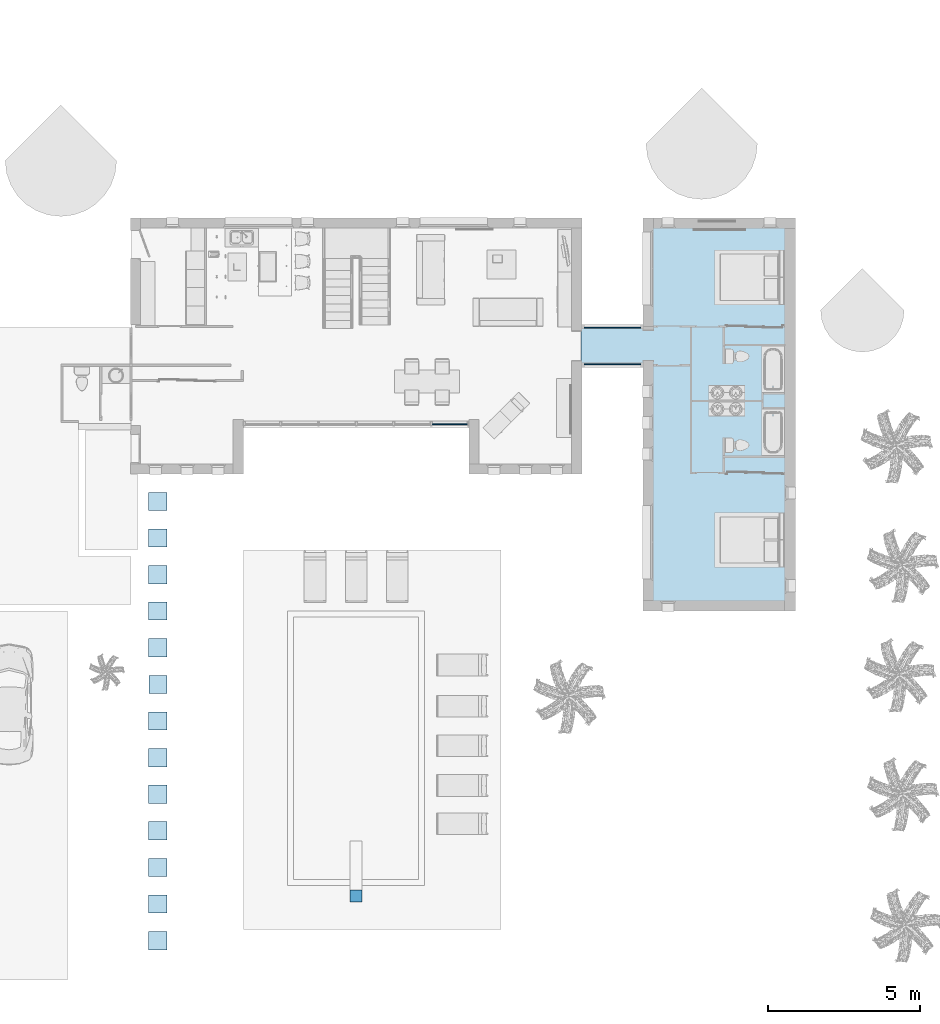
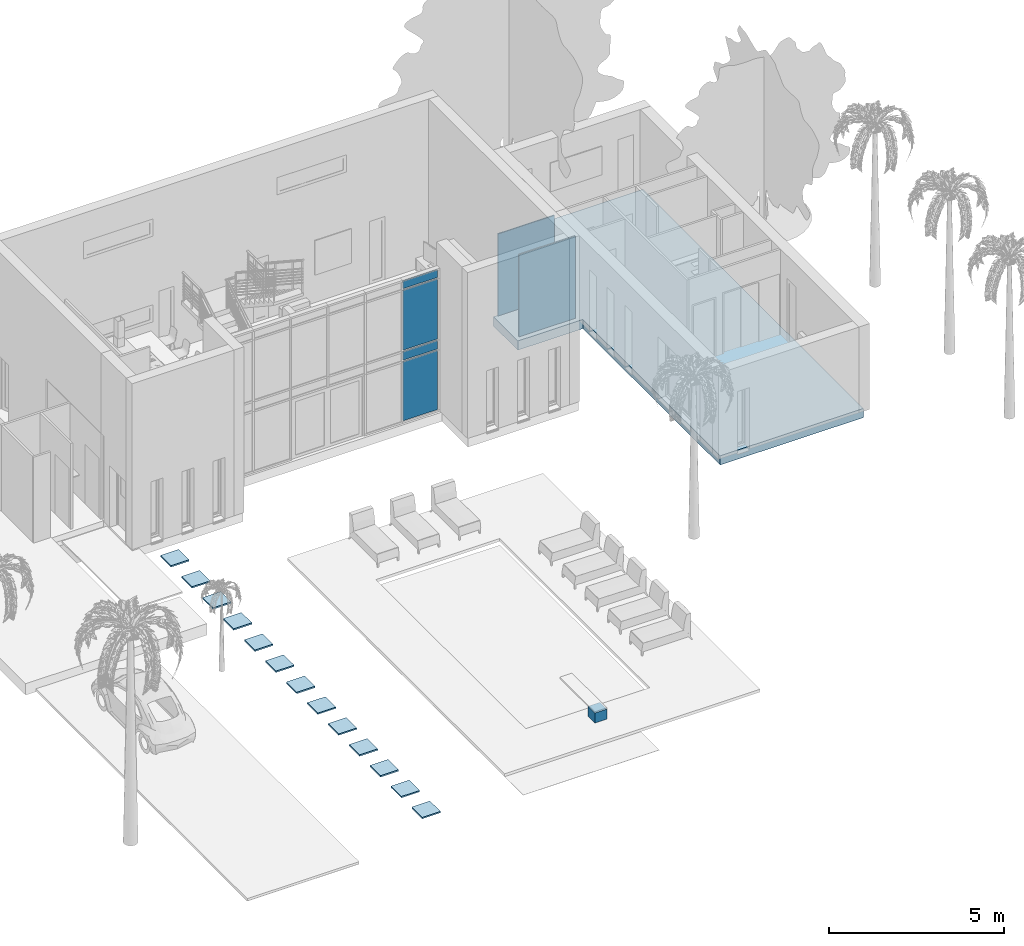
# One storey, part 3 of 40: 15 slabs, 6 plates, 3 elements without a shape of their own.
"""IFC2X3 building model written with IfcOpenShell, lengths in metres."""

from ifc_helpers import new_model, entity, si_unit, converted_unit, derived_unit, direction, frame, frame_2d, origin, origin_2d_with_axis, place, context, subcontext, project, spatial, polyline, rectangle, outline, extrude, source, transform, mapped, material, layer, layer_set, layer_usage, type_object, type_shapes, element, aggregate, save


model = new_model("IFC2X3")

# Units and contexts
model_context = context("Model", 3, precision=1e-05, world=origin(), true_north=direction((6.12303176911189e-17, 1.0)))
body_context = subcontext(model_context, "Body", "Model", "MODEL_VIEW")
ifc_project = project(units=[si_unit("LENGTHUNIT", "METRE"), si_unit("AREAUNIT", "SQUARE_METRE"), si_unit("VOLUMEUNIT", "CUBIC_METRE"), converted_unit("PLANEANGLEUNIT", "DEGREE", entity("IfcRatioMeasure", 0.0174532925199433), si_unit("PLANEANGLEUNIT", "RADIAN"), dimensions=[0, 0, 0, 0, 0, 0, 0]), si_unit("MASSUNIT", "GRAM", prefix="KILO"), derived_unit("MASSDENSITYUNIT", [(si_unit("MASSUNIT", "GRAM", prefix="KILO"), 1), (si_unit("LENGTHUNIT", "METRE"), -3)]), si_unit("TIMEUNIT", "SECOND"), si_unit("FREQUENCYUNIT", "HERTZ"), si_unit("THERMODYNAMICTEMPERATUREUNIT", "DEGREE_CELSIUS"), derived_unit("THERMALTRANSMITTANCEUNIT", [(si_unit("MASSUNIT", "GRAM", prefix="KILO"), 1), (si_unit("THERMODYNAMICTEMPERATUREUNIT", "KELVIN"), -1), (si_unit("TIMEUNIT", "SECOND"), -3)]), derived_unit("VOLUMETRICFLOWRATEUNIT", [(si_unit("LENGTHUNIT", "METRE"), 3), (si_unit("TIMEUNIT", "SECOND"), -1)]), si_unit("ELECTRICCURRENTUNIT", "AMPERE"), si_unit("ELECTRICVOLTAGEUNIT", "VOLT"), si_unit("POWERUNIT", "WATT"), si_unit("FORCEUNIT", "NEWTON", prefix="KILO"), si_unit("ILLUMINANCEUNIT", "LUX"), si_unit("LUMINOUSFLUXUNIT", "LUMEN"), si_unit("LUMINOUSINTENSITYUNIT", "CANDELA"), derived_unit("USERDEFINED", [(si_unit("MASSUNIT", "GRAM", prefix="KILO"), -1), (si_unit("LENGTHUNIT", "METRE"), -2), (si_unit("TIMEUNIT", "SECOND"), 3), (si_unit("LUMINOUSFLUXUNIT", "LUMEN"), 1)]), derived_unit("LINEARVELOCITYUNIT", [(si_unit("LENGTHUNIT", "METRE"), 1), (si_unit("TIMEUNIT", "SECOND"), -1)]), si_unit("PRESSUREUNIT", "PASCAL"), derived_unit("USERDEFINED", [(si_unit("LENGTHUNIT", "METRE"), -2), (si_unit("MASSUNIT", "GRAM", prefix="KILO"), 1), (si_unit("TIMEUNIT", "SECOND"), -2)])], contexts=[model_context])

# Site, building, storey
site_placement = place(None, origin())
site = spatial("IfcSite", under=ifc_project, at=site_placement, Name="Surface", CompositionType="ELEMENT")
building_placement = place(site_placement, origin())
building = spatial("IfcBuilding", under=site, at=building_placement, CompositionType="ELEMENT")
storey_placement = place(building_placement, origin())
storey = spatial("IfcBuildingStorey", under=building, at=storey_placement, Name="RDC", CompositionType="ELEMENT", Elevation=-1.0941605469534e-13)

# Curtain wall, plates
curtain_wall_type_1 = type_object("IfcCurtainWallType", Name="Mur-rideau:Simple panneau", PredefinedType="NOTDEFINED")
curtain_wall_1_placement = place(storey_placement, origin())
curtain_wall_1 = element("IfcCurtainWall", 1, at=curtain_wall_1_placement, inside=storey, type_object=curtain_wall_type_1, Name="Mur-rideau:Simple panneau", ObjectType="Mur-rideau:Simple panneau")
ifc_material_1 = material(Name="Verre")
ifc_layer_1 = layer(ifc_material_1, 0.04)
ifc_layer_set_1 = layer_set([ifc_layer_1], Name="Mur-rideau:Simple panneau")
ifc_layer_usage_1 = layer_usage(ifc_layer_set_1, "AXIS3", "POSITIVE", 0.0820209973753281)
plate_type_1 = type_object("IfcPlateType", Name="Vitré", PredefinedType="CURTAIN_PANEL", material=ifc_layer_set_1)
shared_shape_1 = source(origin(), body_context, "Body", "SweptSolid", [
    extrude(rectangle(XDim=0.04, YDim=1.14333333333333, at=origin_2d_with_axis()), frame((0.0, -0.025, 0.0), z_axis=(0.0, 0.0, 1.0), x_axis=(0.0, 1.0, 0.0)), (0.0, 0.0, 1.0), 2.06),
])
type_shapes(plate_type_1, [shared_shape_1])
plate_1_placement = place(curtain_wall_1_placement, frame((5.46584444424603, 1.13701067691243, 0.0599999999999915)))
plate_1 = element("IfcPlate", 2, at=plate_1_placement, type_object=plate_type_1, material=ifc_layer_usage_1, Name="Panneau système:Vitré", ObjectType="Vitré", context=body_context, shape_type="MappedRepresentation", body=[
    mapped(shared_shape_1, transform((0.0, 0.0, 0.0), scale=1.0)),
])
ifc_layer_usage_2 = layer_usage(ifc_layer_set_1, "AXIS3", "POSITIVE", 0.0820209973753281)
plate_type_2 = type_object("IfcPlateType", Name="Vitré", PredefinedType="CURTAIN_PANEL", material=ifc_layer_set_1)
shared_shape_2 = source(origin(), body_context, "Body", "SweptSolid", [
    extrude(rectangle(XDim=0.04, YDim=1.14333333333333, at=origin_2d_with_axis()), frame((0.0, -0.025, 0.0), z_axis=(0.0, 0.0, 1.0), x_axis=(0.0, 1.0, 0.0)), (0.0, 0.0, 1.0), 0.29),
])
type_shapes(plate_type_2, [shared_shape_2])
plate_2_placement = place(curtain_wall_1_placement, frame((5.46584444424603, 1.13701067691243, 2.17999999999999)))
plate_2 = element("IfcPlate", 3, at=plate_2_placement, type_object=plate_type_2, material=ifc_layer_usage_2, Name="Panneau système:Vitré", ObjectType="Vitré", context=body_context, shape_type="MappedRepresentation", body=[
    mapped(shared_shape_2, transform((0.0, 0.0, 0.0), scale=1.0)),
])
ifc_layer_usage_3 = layer_usage(ifc_layer_set_1, "AXIS3", "POSITIVE", 0.0820209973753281)
plate_type_3 = type_object("IfcPlateType", Name="Vitré", PredefinedType="CURTAIN_PANEL", material=ifc_layer_set_1)
shared_shape_3 = source(origin(), body_context, "Body", "SweptSolid", [
    extrude(rectangle(XDim=0.04, YDim=1.14333333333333, at=origin_2d_with_axis()), frame((0.0, -0.025, 0.0), z_axis=(0.0, 0.0, 1.0), x_axis=(0.0, 1.0, 0.0)), (0.0, 0.0, 1.0), 2.09),
])
type_shapes(plate_type_3, [shared_shape_3])
plate_3_placement = place(curtain_wall_1_placement, frame((5.46584444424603, 1.13701067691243, 2.52999999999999)))
plate_3 = element("IfcPlate", 4, at=plate_3_placement, type_object=plate_type_3, material=ifc_layer_usage_3, Name="Panneau système:Vitré", ObjectType="Vitré", context=body_context, shape_type="MappedRepresentation", body=[
    mapped(shared_shape_3, transform((0.0, 0.0, 0.0), scale=1.0)),
])
ifc_layer_usage_4 = layer_usage(ifc_layer_set_1, "AXIS3", "POSITIVE", 0.0820209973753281)
plate_type_4 = type_object("IfcPlateType", Name="Vitré", PredefinedType="CURTAIN_PANEL", material=ifc_layer_set_1)
shared_shape_4 = source(origin(), body_context, "Body", "SweptSolid", [
    extrude(rectangle(XDim=0.04, YDim=1.14333333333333, at=origin_2d_with_axis()), frame((0.0, -0.025, 0.0), z_axis=(0.0, 0.0, 1.0), x_axis=(0.0, 1.0, 0.0)), (0.0, 0.0, 1.0), 0.259999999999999),
])
type_shapes(plate_type_4, [shared_shape_4])
plate_4_placement = place(curtain_wall_1_placement, frame((5.46584444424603, 1.13701067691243, 4.67999999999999)))
plate_4 = element("IfcPlate", 5, at=plate_4_placement, type_object=plate_type_4, material=ifc_layer_usage_4, Name="Panneau système:Vitré", ObjectType="Vitré", context=body_context, shape_type="MappedRepresentation", body=[
    mapped(shared_shape_4, transform((0.0, 0.0, 0.0), scale=1.0)),
])
aggregate(curtain_wall_1, [plate_1, plate_2, plate_3, plate_4])

# Curtain wall, plate
curtain_wall_type_2 = type_object("IfcCurtainWallType", Name="Mur-rideau:Simple panneau 2", PredefinedType="NOTDEFINED")
curtain_wall_2_placement = place(storey_placement, origin())
curtain_wall_2 = element("IfcCurtainWall", 6, at=curtain_wall_2_placement, inside=storey, type_object=curtain_wall_type_2, Name="Mur-rideau:Simple panneau 2", ObjectType="Mur-rideau:Simple panneau 2")
ifc_layer_usage_5 = layer_usage(ifc_layer_set_1, "AXIS3", "POSITIVE", 0.0820209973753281)
plate_type_5 = type_object("IfcPlateType", Name="Vitré", PredefinedType="CURTAIN_PANEL", material=ifc_layer_set_1)
shared_shape_5 = source(origin(), body_context, "Body", "SweptSolid", [
    extrude(rectangle(XDim=0.04, YDim=1.868, at=frame_2d((-3.46944695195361e-18, 0.0), x_axis=(1.0, 0.0))), frame((0.0, 0.025, 0.0), z_axis=(0.0, 0.0, 1.0), x_axis=(0.0, 1.0, 0.0)), (0.0, 0.0, 1.0), 2.86799999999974),
])
type_shapes(plate_type_5, [shared_shape_5])
plate_5_placement = place(curtain_wall_2_placement, frame((10.7975111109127, 3.05201067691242, 0.0659999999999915)))
plate_5 = element("IfcPlate", 7, at=plate_5_placement, type_object=plate_type_5, material=ifc_layer_usage_5, Name="Panneau système:Vitré", ObjectType="Vitré", context=body_context, shape_type="MappedRepresentation", body=[
    mapped(shared_shape_5, transform((0.0, 0.0, 0.0), scale=1.0)),
])
aggregate(curtain_wall_2, [plate_5])

curtain_wall_3_placement = place(storey_placement, origin())
curtain_wall_3 = element("IfcCurtainWall", 8, at=curtain_wall_3_placement, inside=storey, type_object=curtain_wall_type_2, Name="Mur-rideau:Simple panneau 2", ObjectType="Mur-rideau:Simple panneau 2")
ifc_layer_usage_6 = layer_usage(ifc_layer_set_1, "AXIS3", "POSITIVE", 0.0820209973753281)
plate_type_6 = type_object("IfcPlateType", Name="Vitré", PredefinedType="CURTAIN_PANEL", material=ifc_layer_set_1)
shared_shape_6 = source(origin(), body_context, "Body", "SweptSolid", [
    extrude(rectangle(XDim=0.04, YDim=1.868, at=origin_2d_with_axis()), frame((0.0, -0.025, 0.0), z_axis=(0.0, 0.0, 1.0), x_axis=(0.0, 1.0, 0.0)), (0.0, 0.0, 1.0), 2.86799999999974),
])
type_shapes(plate_type_6, [shared_shape_6])
plate_6_placement = place(curtain_wall_3_placement, frame((10.7975111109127, 4.30201067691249, 0.0659999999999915)))
plate_6 = element("IfcPlate", 9, at=plate_6_placement, type_object=plate_type_6, material=ifc_layer_usage_6, Name="Panneau système:Vitré", ObjectType="Vitré", context=body_context, shape_type="MappedRepresentation", body=[
    mapped(shared_shape_6, transform((0.0, 0.0, 0.0), scale=1.0)),
])
aggregate(curtain_wall_3, [plate_6])

# Slabs
ifc_material_2 = material(Name="Parquet bois")
ifc_layer_2 = layer(ifc_material_2, 0.02)
ifc_material_3 = material(Name="Chape")
ifc_layer_3 = layer(ifc_material_3, 0.05)
ifc_material_4 = material(Name="Maçonnerie - Isolant")
ifc_layer_4 = layer(ifc_material_4, 0.05)
ifc_material_5 = material(Name="Maçonnerie - Béton")
ifc_layer_5 = layer(ifc_material_5, 0.2)
ifc_layer_set_2 = layer_set([ifc_layer_2, ifc_layer_3, ifc_layer_4, ifc_layer_5], Name="Sol:Plancher espace nuit")
ifc_layer_usage_7 = layer_usage(ifc_layer_set_2, "AXIS3", "POSITIVE", 0.0)
slab_1_placement = place(storey_placement, origin())
element("IfcSlab", 10, at=slab_1_placement, inside=storey, material=ifc_layer_usage_7, Name="Sol:Plancher espace nuit", ObjectType="Sol:Plancher espace nuit", PredefinedType="FLOOR", context=body_context, shape_type="SweptSolid", body=[
    extrude(outline(polyline([(0.423812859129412, -2.79796320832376), (1.82381285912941, -2.79796320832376), (1.82381285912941, -0.64703679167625), (5.19118714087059, -0.647036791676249), (5.19118714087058, 4.09203679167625), (-7.43881285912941, 4.09203679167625), (-7.43881285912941, -0.647036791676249), (0.423812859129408, -0.647036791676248), (0.423812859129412, -2.79796320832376)])), frame((12.5754743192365, 2.55319781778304, 0.0), z_axis=(0.0, 0.0, -1.0), x_axis=(0.0, 1.0, 0.0)), (0.0, 0.0, 1.0), 0.32),
])
ifc_material_6 = material(Name="Pierre beige")
ifc_layer_6 = layer(ifc_material_6, 0.05)
ifc_layer_set_3 = layer_set([ifc_layer_6], Name="Sol:Dalle pierre acces pieton")
ifc_layer_usage_8 = layer_usage(ifc_layer_set_3, "AXIS3", "POSITIVE", 0.0)
slab_2_placement = place(storey_placement, origin())
element("IfcSlab", 11, at=slab_2_placement, inside=storey, material=ifc_layer_usage_8, Name="Sol:Dalle pierre acces pieton", ObjectType="Sol:Dalle pierre acces pieton", PredefinedType="FLOOR", context=body_context, shape_type="SweptSolid", body=[
    extrude(rectangle(XDim=0.6, YDim=0.6, at=origin_2d_with_axis()), frame((-4.10248888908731, -2.62298932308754, -0.0500000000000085), z_axis=(0.0, 0.0, -1.0), x_axis=(0.0, 1.0, 0.0)), (0.0, 0.0, 1.0), 0.05),
])
ifc_layer_usage_9 = layer_usage(ifc_layer_set_3, "AXIS3", "POSITIVE", 0.0)
slab_3_placement = place(storey_placement, origin())
element("IfcSlab", 12, at=slab_3_placement, inside=storey, material=ifc_layer_usage_9, Name="Sol:Dalle pierre acces pieton", ObjectType="Sol:Dalle pierre acces pieton", PredefinedType="FLOOR", context=body_context, shape_type="SweptSolid", body=[
    extrude(rectangle(XDim=0.6, YDim=0.6, at=origin_2d_with_axis()), frame((-4.10248888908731, -1.42298932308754, -0.0400000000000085), z_axis=(0.0, 0.0, -1.0), x_axis=(0.0, 1.0, 0.0)), (0.0, 0.0, 1.0), 0.05),
])
ifc_layer_usage_10 = layer_usage(ifc_layer_set_3, "AXIS3", "POSITIVE", 0.0)
slab_4_placement = place(storey_placement, origin())
element("IfcSlab", 13, at=slab_4_placement, inside=storey, material=ifc_layer_usage_10, Name="Sol:Dalle pierre acces pieton", ObjectType="Sol:Dalle pierre acces pieton", PredefinedType="FLOOR", context=body_context, shape_type="SweptSolid", body=[
    extrude(rectangle(XDim=0.6, YDim=0.6, at=origin_2d_with_axis()), frame((-4.10248888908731, -3.82298932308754, -0.0600000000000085), z_axis=(0.0, 0.0, -1.0), x_axis=(0.0, 1.0, 0.0)), (0.0, 0.0, 1.0), 0.05),
])
ifc_layer_usage_11 = layer_usage(ifc_layer_set_3, "AXIS3", "POSITIVE", 0.0)
slab_5_placement = place(storey_placement, origin())
element("IfcSlab", 14, at=slab_5_placement, inside=storey, material=ifc_layer_usage_11, Name="Sol:Dalle pierre acces pieton", ObjectType="Sol:Dalle pierre acces pieton", PredefinedType="FLOOR", context=body_context, shape_type="SweptSolid", body=[
    extrude(rectangle(XDim=0.6, YDim=0.6, at=origin_2d_with_axis()), frame((-4.10248888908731, -5.01298932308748, -0.0700000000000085), z_axis=(0.0, 0.0, -1.0), x_axis=(0.0, 1.0, 0.0)), (0.0, 0.0, 1.0), 0.05),
])
ifc_layer_usage_12 = layer_usage(ifc_layer_set_3, "AXIS3", "POSITIVE", 0.0)
slab_6_placement = place(storey_placement, origin())
element("IfcSlab", 15, at=slab_6_placement, inside=storey, material=ifc_layer_usage_12, Name="Sol:Dalle pierre acces pieton", ObjectType="Sol:Dalle pierre acces pieton", PredefinedType="FLOOR", context=body_context, shape_type="SweptSolid", body=[
    extrude(rectangle(XDim=0.6, YDim=0.6, at=origin_2d_with_axis()), frame((-4.10248888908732, -6.22298932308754, -0.0800000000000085), z_axis=(0.0, 0.0, -1.0), x_axis=(0.0, 1.0, 0.0)), (0.0, 0.0, 1.0), 0.05),
])
ifc_layer_usage_13 = layer_usage(ifc_layer_set_3, "AXIS3", "POSITIVE", 0.0)
slab_7_placement = place(storey_placement, origin())
element("IfcSlab", 16, at=slab_7_placement, inside=storey, material=ifc_layer_usage_13, Name="Sol:Dalle pierre acces pieton", ObjectType="Sol:Dalle pierre acces pieton", PredefinedType="FLOOR", context=body_context, shape_type="SweptSolid", body=[
    extrude(rectangle(XDim=0.6, YDim=0.6, at=origin_2d_with_axis()), frame((-4.09567663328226, -7.42298932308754, -0.0900000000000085), z_axis=(0.0, 0.0, -1.0), x_axis=(0.0, 1.0, 0.0)), (0.0, 0.0, 1.0), 0.05),
])
ifc_layer_usage_14 = layer_usage(ifc_layer_set_3, "AXIS3", "POSITIVE", 0.0)
slab_8_placement = place(storey_placement, origin())
element("IfcSlab", 17, at=slab_8_placement, inside=storey, material=ifc_layer_usage_14, Name="Sol:Dalle pierre acces pieton", ObjectType="Sol:Dalle pierre acces pieton", PredefinedType="FLOOR", context=body_context, shape_type="SweptSolid", body=[
    extrude(rectangle(XDim=0.6, YDim=0.6, at=origin_2d_with_axis()), frame((-4.10248888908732, -8.62298932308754, -0.100000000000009), z_axis=(0.0, 0.0, -1.0), x_axis=(0.0, 1.0, 0.0)), (0.0, 0.0, 1.0), 0.05),
])
ifc_layer_usage_15 = layer_usage(ifc_layer_set_3, "AXIS3", "POSITIVE", 0.0)
slab_9_placement = place(storey_placement, origin())
element("IfcSlab", 18, at=slab_9_placement, inside=storey, material=ifc_layer_usage_15, Name="Sol:Dalle pierre acces pieton", ObjectType="Sol:Dalle pierre acces pieton", PredefinedType="FLOOR", context=body_context, shape_type="SweptSolid", body=[
    extrude(rectangle(XDim=0.6, YDim=0.6, at=frame_2d((-1.08246744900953e-15, 0.0), x_axis=(1.0, 0.0))), frame((-4.10248888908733, -9.82298932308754, -0.100000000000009), z_axis=(0.0, 0.0, -1.0), x_axis=(0.0, 1.0, 0.0)), (0.0, 0.0, 1.0), 0.05),
])
ifc_layer_usage_16 = layer_usage(ifc_layer_set_3, "AXIS3", "POSITIVE", 0.0)
slab_10_placement = place(storey_placement, origin())
element("IfcSlab", 19, at=slab_10_placement, inside=storey, material=ifc_layer_usage_16, Name="Sol:Dalle pierre acces pieton", ObjectType="Sol:Dalle pierre acces pieton", PredefinedType="FLOOR", context=body_context, shape_type="SweptSolid", body=[
    extrude(rectangle(XDim=0.6, YDim=0.6, at=frame_2d((-1.08246744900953e-15, 0.0), x_axis=(1.0, 0.0))), frame((-4.10248888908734, -11.0229893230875, -0.100000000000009), z_axis=(0.0, 0.0, -1.0), x_axis=(0.0, 1.0, 0.0)), (0.0, 0.0, 1.0), 0.05),
])
ifc_layer_usage_17 = layer_usage(ifc_layer_set_3, "AXIS3", "POSITIVE", 0.0)
slab_11_placement = place(storey_placement, origin())
element("IfcSlab", 20, at=slab_11_placement, inside=storey, material=ifc_layer_usage_17, Name="Sol:Dalle pierre acces pieton", ObjectType="Sol:Dalle pierre acces pieton", PredefinedType="FLOOR", context=body_context, shape_type="SweptSolid", body=[
    extrude(rectangle(XDim=0.6, YDim=0.6, at=frame_2d((-1.08246744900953e-15, 0.0), x_axis=(1.0, 0.0))), frame((-4.10248888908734, -12.2229893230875, -0.105000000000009), z_axis=(0.0, 0.0, -1.0), x_axis=(0.0, 1.0, 0.0)), (0.0, 0.0, 1.0), 0.05),
])
ifc_layer_usage_18 = layer_usage(ifc_layer_set_3, "AXIS3", "POSITIVE", 0.0)
slab_12_placement = place(storey_placement, origin())
element("IfcSlab", 21, at=slab_12_placement, inside=storey, material=ifc_layer_usage_18, Name="Sol:Dalle pierre acces pieton", ObjectType="Sol:Dalle pierre acces pieton", PredefinedType="FLOOR", context=body_context, shape_type="SweptSolid", body=[
    extrude(rectangle(XDim=0.6, YDim=0.6, at=frame_2d((-1.08246744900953e-15, 0.0), x_axis=(1.0, 0.0))), frame((-4.10248888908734, -13.4229893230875, -0.105000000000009), z_axis=(0.0, 0.0, -1.0), x_axis=(0.0, 1.0, 0.0)), (0.0, 0.0, 1.0), 0.05),
])
ifc_layer_usage_19 = layer_usage(ifc_layer_set_3, "AXIS3", "POSITIVE", 0.0)
slab_13_placement = place(storey_placement, origin())
element("IfcSlab", 22, at=slab_13_placement, inside=storey, material=ifc_layer_usage_19, Name="Sol:Dalle pierre acces pieton", ObjectType="Sol:Dalle pierre acces pieton", PredefinedType="FLOOR", context=body_context, shape_type="SweptSolid", body=[
    extrude(rectangle(XDim=0.6, YDim=0.6, at=frame_2d((-1.08246744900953e-15, 0.0), x_axis=(1.0, 0.0))), frame((-4.10211712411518, -14.6209788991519, -0.105000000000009), z_axis=(0.0, 0.0, -1.0), x_axis=(0.0, 1.0, 0.0)), (0.0, 0.0, 1.0), 0.05),
])
ifc_layer_usage_20 = layer_usage(ifc_layer_set_3, "AXIS3", "POSITIVE", 0.0)
slab_14_placement = place(storey_placement, origin())
element("IfcSlab", 23, at=slab_14_placement, inside=storey, material=ifc_layer_usage_20, Name="Sol:Dalle pierre acces pieton", ObjectType="Sol:Dalle pierre acces pieton", PredefinedType="FLOOR", context=body_context, shape_type="SweptSolid", body=[
    extrude(rectangle(XDim=0.6, YDim=0.6, at=frame_2d((-1.08246744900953e-15, 0.0), x_axis=(1.0, 0.0))), frame((-4.10810175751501, -15.8229893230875, -0.105000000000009), z_axis=(0.0, 0.0, -1.0), x_axis=(0.0, 1.0, 0.0)), (0.0, 0.0, 1.0), 0.05),
])
ifc_layer_7 = layer(ifc_material_5, 0.35)
ifc_layer_set_4 = layer_set([ifc_layer_7], Name="Sol:Bloc plongeoir")
ifc_layer_usage_21 = layer_usage(ifc_layer_set_4, "AXIS3", "POSITIVE", 0.0)
slab_15_placement = place(storey_placement, origin())
element("IfcSlab", 24, at=slab_15_placement, inside=storey, material=ifc_layer_usage_21, Name="Sol:Bloc plongeoir", ObjectType="Sol:Bloc plongeoir", PredefinedType="FLOOR", context=body_context, shape_type="SweptSolid", body=[
    extrude(rectangle(XDim=0.399999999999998, YDim=0.4, at=frame_2d((1.08246744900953e-15, 0.0), x_axis=(1.0, 0.0))), frame((2.39681118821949, -14.3623371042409, 0.279999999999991), z_axis=(0.0, 0.0, -1.0), x_axis=(0.0, 1.0, 0.0)), (0.0, 0.0, 1.0), 0.35),
])

save(model, "model.ifc")
